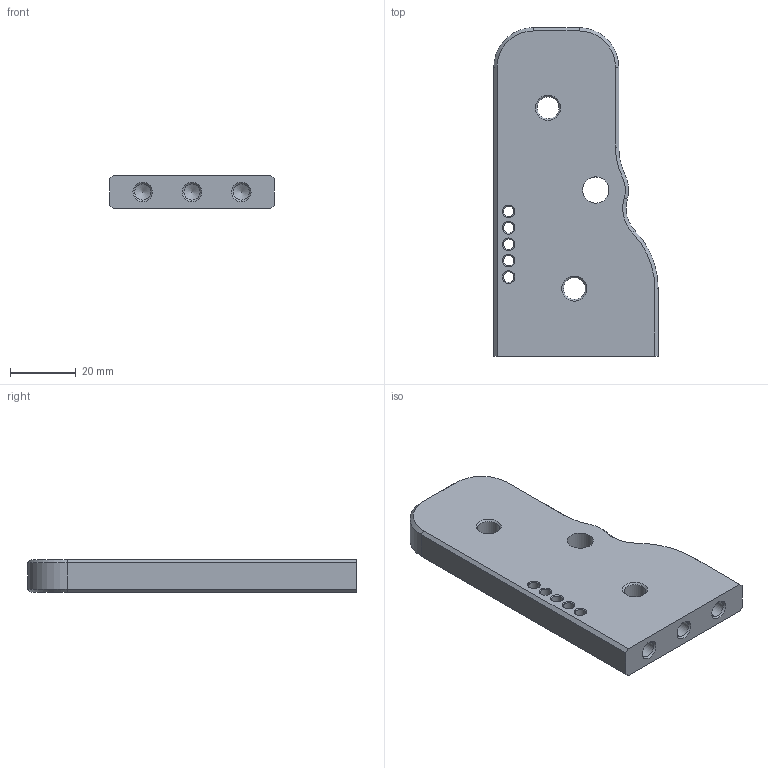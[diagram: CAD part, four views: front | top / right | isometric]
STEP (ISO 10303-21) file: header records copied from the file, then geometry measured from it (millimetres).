
FILE_DESCRIPTION(/* description */ (''),/* implementation_level */ '2;1');
FILE_NAME(/* name */ 'D:\IN 制图\设备\手动剥线机带侧刀4.02\工程图\侧架.stp',/* time_stamp */ '2026-06-21T17:40:15+08:00',/* author */ ('ROG'),/* organization */ (''),/* preprocessor_version */ 'ST-DEVELOPER v19',/* originating_system */ 'Autodesk Inventor 2023',/* authorisation */ '');
FILE_SCHEMA (('AUTOMOTIVE_DESIGN { 1 0 10303 214 3 1 1 }'));
Length unit declared in the file: millimetre
Products named in the file (1): 侧架
Bounding box: 50 x 100 x 10 mm (x, y, z)
Volume: 39360.5 mm3; surface area: 12456.8 mm2
Topology: 1 solids, 1 shells, 65 faces, 161 edges, 100 vertices
Faces by surface type: cone 33, cylinder 17, plane 15
Full cylindrical faces by diameter (mm): 3.242 x5, 4.917 x3, 6.647 x2, 8 x1
Entity records: 2073 total; most frequent: DIRECTION 365, CARTESIAN_POINT 324, ORIENTED_EDGE 316, EDGE_CURVE 158, AXIS2_PLACEMENT_3D 141, VERTEX_POINT 98, EDGE_LOOP 84, LINE 83
